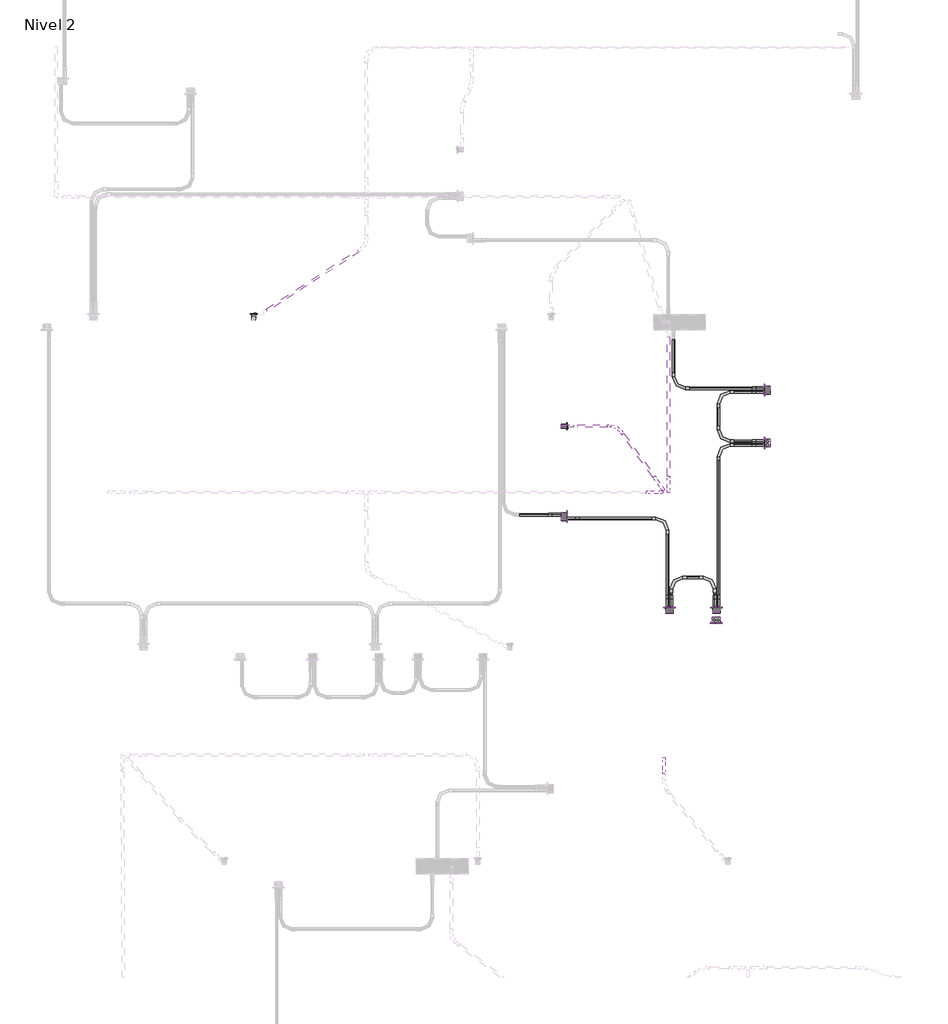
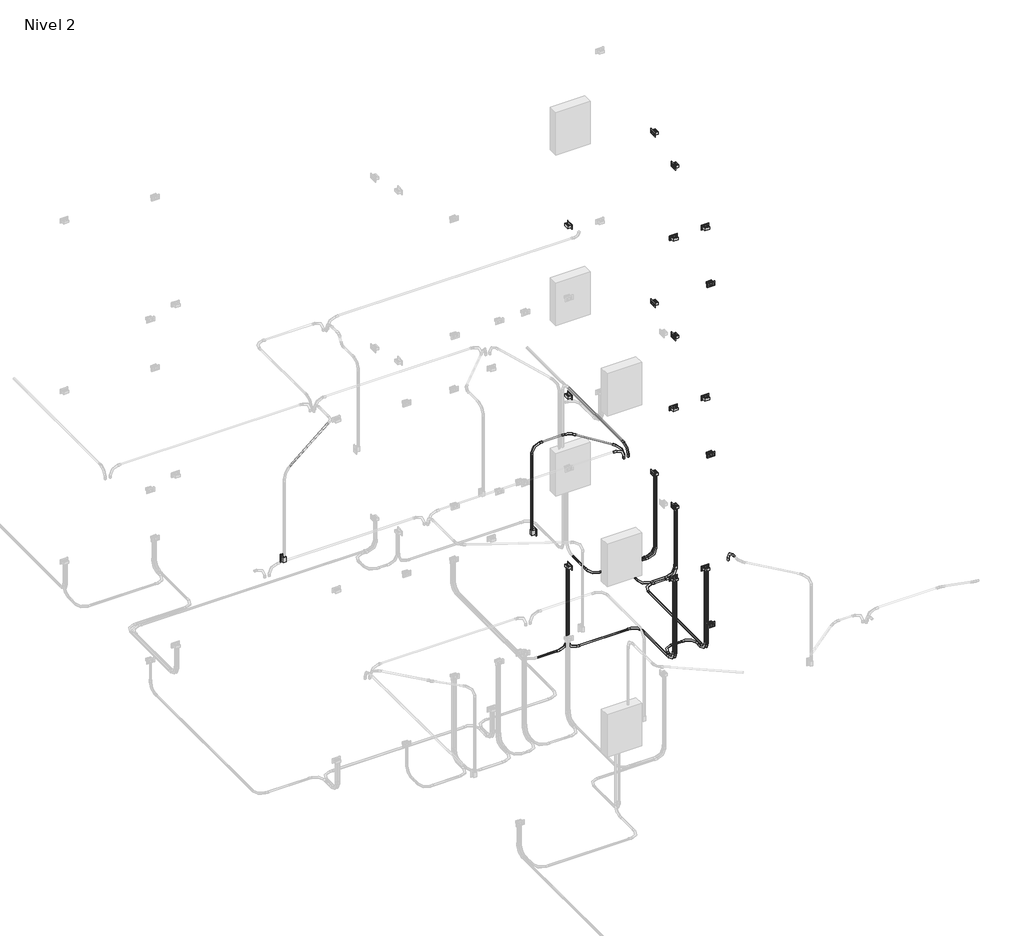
# One storey, part 7 of 10: 28 cable carrier segments, 23 cable carrier fittings, 18 proxies, 2 switching devices.
"""IFC4 building model written with IfcOpenShell, lengths in millimetres."""

from ifc_helpers import new_model, si_unit, point, frame, frame_2d, origin, place, context, project, spatial, circle_curve, trimmed, segment, composite_curve, outline, extrude, transform, mapped, element, save
from components import gfci_180f1b41, m_codo_de_tubo_extremo_liso_pvc_9da73e12, m_codo_de_tubo_extremo_liso_pvc_102f0f41, m_codo_de_tubo_extremo_liso_pvc_7e29693c, switching_device_22fed34b

model = new_model("IFC4")

# Units and contexts
model_context = context("Model", 3, world=origin())
ifc_project = project(units=[si_unit("LENGTHUNIT", "METRE", prefix="MILLI")], contexts=[model_context])

# Site, building, storey
site = spatial("IfcSite", under=ifc_project)
building = spatial("IfcBuilding", under=site)
storey = spatial("IfcBuildingStorey", under=building, Name="Nivel 2", Elevation=2800.0)

# Proxies
placement = place(None, origin())
gfci_shape = gfci_180f1b41(model_context)
element("IfcBuildingElementProxy", 1, Name="Tomacorriente doble 220V : GFCI", ObjectType="Tomacorriente doble 220V : GFCI", at=placement, inside=storey, context=model_context, shape_type="MappedRepresentation", body=[
    mapped(gfci_shape, transform((6315.0, 11621.3114271, 4000.0), x_axis=(0.0, 0.0, 1.0), y_axis=(0.0, 1.0, 0.0), z_axis=(-1.0, 0.0, 0.0))),
])
element("IfcBuildingElementProxy", 2, Name="Tomacorriente doble 220V : GFCI", ObjectType="Tomacorriente doble 220V : GFCI", at=placement, inside=storey, context=model_context, shape_type="MappedRepresentation", body=[
    mapped(gfci_shape, transform((6315.0, 11100.796667, 3800.0), x_axis=(0.0, 0.0, 1.0), y_axis=(0.0, 1.0, 0.0), z_axis=(-1.0, 0.0, 0.0))),
])
element("IfcBuildingElementProxy", 3, Name="Tomacorriente doble 220V : GFCI", ObjectType="Tomacorriente doble 220V : GFCI", at=placement, inside=storey, context=model_context, shape_type="MappedRepresentation", body=[
    mapped(gfci_shape, transform((5843.9365516, 9485.0, 4000.0), x_axis=(0.0, 0.0, 1.0), y_axis=(1.0, 0.0, 0.0), z_axis=(0.0, 1.0, 0.0))),
])
element("IfcBuildingElementProxy", 4, Name="Tomacorriente doble 220V : GFCI", ObjectType="Tomacorriente doble 220V : GFCI", at=placement, inside=storey, context=model_context, shape_type="MappedRepresentation", body=[
    mapped(gfci_shape, transform((5380.6033408, 9485.0, 4000.0), x_axis=(0.0, 0.0, 1.0), y_axis=(1.0, 0.0, 0.0), z_axis=(0.0, 1.0, 0.0))),
])
element("IfcBuildingElementProxy", 5, Name="Tomacorriente doble 220V : GFCI", ObjectType="Tomacorriente doble 220V : GFCI", at=placement, inside=storey, context=model_context, shape_type="MappedRepresentation", body=[
    mapped(gfci_shape, transform((4370.0005808, 10378.1627396, 4000.0), x_axis=(0.0, 0.0, 1.0), y_axis=(0.0, -1.0, 0.0), z_axis=(1.0, 0.0, 0.0))),
])
element("IfcBuildingElementProxy", 6, Name="Tomacorriente doble 220V : GFCI", ObjectType="Tomacorriente doble 220V : GFCI", at=placement, inside=storey, context=model_context, shape_type="MappedRepresentation", body=[
    mapped(gfci_shape, transform((5840.4348932, 9335.0, 3200.0), x_axis=(0.0, 0.0, 1.0), y_axis=(-1.0, 0.0, 0.0), z_axis=(0.0, -1.0, 0.0))),
])
element("IfcBuildingElementProxy", 7, Name="Tomacorriente doble 220V : GFCI", ObjectType="Tomacorriente doble 220V : GFCI", at=placement, inside=storey, context=model_context, shape_type="MappedRepresentation", body=[
    mapped(gfci_shape, transform((6315.0, 11621.3114271, 6650.0), x_axis=(0.0, 0.0, 1.0), y_axis=(0.0, 1.0, 0.0), z_axis=(-1.0, 0.0, 0.0))),
])
element("IfcBuildingElementProxy", 8, Name="Tomacorriente doble 220V : GFCI", ObjectType="Tomacorriente doble 220V : GFCI", at=placement, inside=storey, context=model_context, shape_type="MappedRepresentation", body=[
    mapped(gfci_shape, transform((6315.0, 11100.796667, 6450.0), x_axis=(0.0, 0.0, 1.0), y_axis=(0.0, 1.0, 0.0), z_axis=(-1.0, 0.0, 0.0))),
])
element("IfcBuildingElementProxy", 9, Name="Tomacorriente doble 220V : GFCI", ObjectType="Tomacorriente doble 220V : GFCI", at=placement, inside=storey, context=model_context, shape_type="MappedRepresentation", body=[
    mapped(gfci_shape, transform((5843.9365516, 9485.0, 6650.0), x_axis=(0.0, 0.0, 1.0), y_axis=(1.0, 0.0, 0.0), z_axis=(0.0, 1.0, 0.0))),
])
element("IfcBuildingElementProxy", 10, Name="Tomacorriente doble 220V : GFCI", ObjectType="Tomacorriente doble 220V : GFCI", at=placement, inside=storey, context=model_context, shape_type="MappedRepresentation", body=[
    mapped(gfci_shape, transform((5380.6033408, 9485.0, 6650.0), x_axis=(0.0, 0.0, 1.0), y_axis=(1.0, 0.0, 0.0), z_axis=(0.0, 1.0, 0.0))),
])
element("IfcBuildingElementProxy", 11, Name="Tomacorriente doble 220V : GFCI", ObjectType="Tomacorriente doble 220V : GFCI", at=placement, inside=storey, context=model_context, shape_type="MappedRepresentation", body=[
    mapped(gfci_shape, transform((4370.0005808, 10378.1627396, 6650.0), x_axis=(0.0, 0.0, 1.0), y_axis=(0.0, -1.0, 0.0), z_axis=(1.0, 0.0, 0.0))),
])
element("IfcBuildingElementProxy", 12, Name="Tomacorriente doble 220V : GFCI", ObjectType="Tomacorriente doble 220V : GFCI", at=placement, inside=storey, context=model_context, shape_type="MappedRepresentation", body=[
    mapped(gfci_shape, transform((5840.4348932, 9335.0, 5850.0), x_axis=(0.0, 0.0, 1.0), y_axis=(-1.0, 0.0, 0.0), z_axis=(0.0, -1.0, 0.0))),
])
element("IfcBuildingElementProxy", 13, Name="Tomacorriente doble 220V : GFCI", ObjectType="Tomacorriente doble 220V : GFCI", at=placement, inside=storey, context=model_context, shape_type="MappedRepresentation", body=[
    mapped(gfci_shape, transform((6315.0, 11621.3114271, 9300.0), x_axis=(0.0, 0.0, 1.0), y_axis=(0.0, 1.0, 0.0), z_axis=(-1.0, 0.0, 0.0))),
])
element("IfcBuildingElementProxy", 14, Name="Tomacorriente doble 220V : GFCI", ObjectType="Tomacorriente doble 220V : GFCI", at=placement, inside=storey, context=model_context, shape_type="MappedRepresentation", body=[
    mapped(gfci_shape, transform((6315.0, 11100.796667, 9100.0), x_axis=(0.0, 0.0, 1.0), y_axis=(0.0, 1.0, 0.0), z_axis=(-1.0, 0.0, 0.0))),
])
element("IfcBuildingElementProxy", 15, Name="Tomacorriente doble 220V : GFCI", ObjectType="Tomacorriente doble 220V : GFCI", at=placement, inside=storey, context=model_context, shape_type="MappedRepresentation", body=[
    mapped(gfci_shape, transform((5843.9365516, 9485.0, 9300.0), x_axis=(0.0, 0.0, 1.0), y_axis=(1.0, 0.0, 0.0), z_axis=(0.0, 1.0, 0.0))),
])
element("IfcBuildingElementProxy", 16, Name="Tomacorriente doble 220V : GFCI", ObjectType="Tomacorriente doble 220V : GFCI", at=placement, inside=storey, context=model_context, shape_type="MappedRepresentation", body=[
    mapped(gfci_shape, transform((5380.6033408, 9485.0, 9300.0), x_axis=(0.0, 0.0, 1.0), y_axis=(1.0, 0.0, 0.0), z_axis=(0.0, 1.0, 0.0))),
])
element("IfcBuildingElementProxy", 17, Name="Tomacorriente doble 220V : GFCI", ObjectType="Tomacorriente doble 220V : GFCI", at=placement, inside=storey, context=model_context, shape_type="MappedRepresentation", body=[
    mapped(gfci_shape, transform((4370.0005808, 10378.1627396, 9300.0), x_axis=(0.0, 0.0, 1.0), y_axis=(0.0, -1.0, 0.0), z_axis=(1.0, 0.0, 0.0))),
])
element("IfcBuildingElementProxy", 18, Name="Tomacorriente doble 220V : GFCI", ObjectType="Tomacorriente doble 220V : GFCI", at=placement, inside=storey, context=model_context, shape_type="MappedRepresentation", body=[
    mapped(gfci_shape, transform((5840.4348932, 9335.0, 8500.0), x_axis=(0.0, 0.0, 1.0), y_axis=(-1.0, 0.0, 0.0), z_axis=(0.0, -1.0, 0.0))),
])

# Cable carrier fittings
m_codo_de_tubo_extremo_liso_pvc_shape = m_codo_de_tubo_extremo_liso_pvc_9da73e12(model_context)
element("IfcCableCarrierFitting", 19, ObjectType="M_Codo de tubo - Extremo liso - PVC : CODO POTENCIA", at=placement, inside=storey, context=model_context, shape_type="MappedRepresentation", body=[
    mapped(m_codo_de_tubo_extremo_liso_pvc_shape, transform((6344.6371118, 11639.3432469, 2730.0), x_axis=(0.0, 0.0, -1.0), y_axis=(-1.0, 0.0, 0.0), z_axis=(0.0, 1.0, 0.0))),
])
element("IfcCableCarrierFitting", 20, ObjectType="M_Codo de tubo - Extremo liso - PVC : CODO POTENCIA", at=placement, inside=storey, context=model_context, shape_type="MappedRepresentation", body=[
    mapped(m_codo_de_tubo_extremo_liso_pvc_shape, transform((6344.6371118, 11603.2796073, 2730.0), x_axis=(0.0, 0.0, -1.0), y_axis=(-1.0, 0.0, 0.0), z_axis=(0.0, 1.0, 0.0))),
])
element("IfcCableCarrierFitting", 21, ObjectType="M_Codo de tubo - Extremo liso - PVC : CODO POTENCIA", at=placement, inside=storey, context=model_context, shape_type="MappedRepresentation", body=[
    mapped(m_codo_de_tubo_extremo_liso_pvc_shape, transform((6344.6371118, 11118.8284868, 2730.0), x_axis=(0.0, 0.0, -1.0), y_axis=(-1.0, 0.0, 0.0), z_axis=(0.0, 1.0, 0.0))),
])
element("IfcCableCarrierFitting", 22, ObjectType="M_Codo de tubo - Extremo liso - PVC : CODO POTENCIA", at=placement, inside=storey, context=model_context, shape_type="MappedRepresentation", body=[
    mapped(m_codo_de_tubo_extremo_liso_pvc_shape, transform((6344.6371118, 11082.7648472, 2730.0), x_axis=(0.0, 0.0, -1.0), y_axis=(-1.0, 0.0, 0.0), z_axis=(0.0, 1.0, 0.0))),
])
element("IfcCableCarrierFitting", 23, ObjectType="M_Codo de tubo - Extremo liso - PVC : CODO POTENCIA", at=placement, inside=storey, context=model_context, shape_type="MappedRepresentation", body=[
    mapped(m_codo_de_tubo_extremo_liso_pvc_shape, transform((5861.9683714, 11082.7648472, 2730.0), x_axis=(-1.0, 0.0, 0.0), y_axis=(0.0, -1.0, 0.0), z_axis=(0.0, 0.0, 1.0))),
])
element("IfcCableCarrierFitting", 24, ObjectType="M_Codo de tubo - Extremo liso - PVC : CODO POTENCIA", at=placement, inside=storey, context=model_context, shape_type="MappedRepresentation", body=[
    mapped(m_codo_de_tubo_extremo_liso_pvc_shape, transform((5861.9683714, 9455.3628882, 2730.0), x_axis=(0.0, 0.0, -1.0), y_axis=(0.0, 1.0, 0.0), z_axis=(1.0, 0.0, 0.0))),
])
element("IfcCableCarrierFitting", 25, ObjectType="M_Codo de tubo - Extremo liso - PVC : CODO POTENCIA", at=placement, inside=storey, context=model_context, shape_type="MappedRepresentation", body=[
    mapped(m_codo_de_tubo_extremo_liso_pvc_shape, transform((5861.9683714, 11603.2796073, 2730.0), x_axis=(-1.0, 0.0, 0.0), y_axis=(0.0, -1.0, 0.0), z_axis=(0.0, 0.0, 1.0))),
])
element("IfcCableCarrierFitting", 26, ObjectType="M_Codo de tubo - Extremo liso - PVC : CODO POTENCIA", at=placement, inside=storey, context=model_context, shape_type="MappedRepresentation", body=[
    mapped(m_codo_de_tubo_extremo_liso_pvc_shape, transform((5861.9683714, 11118.8284868, 2730.0), x_axis=(0.0, -1.0, 0.0), y_axis=(1.0, 0.0, 0.0), z_axis=(0.0, 0.0, 1.0))),
])
element("IfcCableCarrierFitting", 27, ObjectType="M_Codo de tubo - Extremo liso - PVC : CODO POTENCIA", at=placement, inside=storey, context=model_context, shape_type="MappedRepresentation", body=[
    mapped(m_codo_de_tubo_extremo_liso_pvc_shape, transform((5825.9047317, 9455.3628882, 2730.0), x_axis=(0.0, 0.0, -1.0), y_axis=(0.0, 1.0, 0.0), z_axis=(1.0, 0.0, 0.0))),
])
element("IfcCableCarrierFitting", 28, ObjectType="M_Codo de tubo - Extremo liso - PVC : CODO POTENCIA", at=placement, inside=storey, context=model_context, shape_type="MappedRepresentation", body=[
    mapped(m_codo_de_tubo_extremo_liso_pvc_shape, transform((5398.6351606, 9455.3628882, 2730.0), x_axis=(0.0, 0.0, -1.0), y_axis=(0.0, 1.0, 0.0), z_axis=(1.0, 0.0, 0.0))),
])
element("IfcCableCarrierFitting", 29, ObjectType="M_Codo de tubo - Extremo liso - PVC : CODO POTENCIA", at=placement, inside=storey, context=model_context, shape_type="MappedRepresentation", body=[
    mapped(m_codo_de_tubo_extremo_liso_pvc_shape, transform((4340.363469, 10360.1309198, 2730.0), x_axis=(0.0, 0.0, -1.0), y_axis=(1.0, 0.0, 0.0), z_axis=(0.0, -1.0, 0.0))),
])
element("IfcCableCarrierFitting", 30, ObjectType="M_Codo de tubo - Extremo liso - PVC : CODO POTENCIA", at=placement, inside=storey, context=model_context, shape_type="MappedRepresentation", body=[
    mapped(m_codo_de_tubo_extremo_liso_pvc_shape, transform((5825.9047317, 9781.7743992, 2730.0), x_axis=(0.0, 1.0, 0.0), y_axis=(-1.0, 0.0, 0.0), z_axis=(0.0, 0.0, 1.0))),
])
element("IfcCableCarrierFitting", 31, ObjectType="M_Codo de tubo - Extremo liso - PVC : CODO POTENCIA", at=placement, inside=storey, context=model_context, shape_type="MappedRepresentation", body=[
    mapped(m_codo_de_tubo_extremo_liso_pvc_shape, transform((5398.6351606, 9781.7743992, 2730.0), x_axis=(-1.0, 0.0, 0.0), y_axis=(0.0, -1.0, 0.0), z_axis=(0.0, 0.0, 1.0))),
])
element("IfcCableCarrierFitting", 32, ObjectType="M_Codo de tubo - Extremo liso - PVC : CODO POTENCIA", at=placement, inside=storey, context=model_context, shape_type="MappedRepresentation", body=[
    mapped(m_codo_de_tubo_extremo_liso_pvc_shape, transform((5362.571521, 10360.1309198, 2730.0), x_axis=(0.0, 1.0, 0.0), y_axis=(-1.0, 0.0, 0.0), z_axis=(0.0, 0.0, 1.0))),
])
element("IfcCableCarrierFitting", 33, ObjectType="M_Codo de tubo - Extremo liso - PVC : CODO POTENCIA", at=placement, inside=storey, context=model_context, shape_type="MappedRepresentation", body=[
    mapped(m_codo_de_tubo_extremo_liso_pvc_shape, transform((5362.571521, 9455.3628882, 2730.0), x_axis=(0.0, 0.0, -1.0), y_axis=(0.0, 1.0, 0.0), z_axis=(1.0, 0.0, 0.0))),
])
element("IfcCableCarrierFitting", 34, ObjectType="M_Codo de tubo - Extremo liso - PVC : CODO POTENCIA", at=placement, inside=storey, context=model_context, shape_type="MappedRepresentation", body=[
    mapped(m_codo_de_tubo_extremo_liso_pvc_shape, transform((4340.363469, 10396.1945594, 2730.0), x_axis=(0.0, 0.0, -1.0), y_axis=(-1.0, 0.0, 0.0), z_axis=(0.0, 1.0, 0.0))),
])
element("IfcCableCarrierFitting", 35, ObjectType="M_Codo de tubo - Extremo liso - PVC : CODO POTENCIA", at=placement, inside=storey, context=model_context, shape_type="MappedRepresentation", body=[
    mapped(m_codo_de_tubo_extremo_liso_pvc_shape, transform((5421.447338, 11639.3432469, 2730.0), x_axis=(0.0, -1.0, 0.0), y_axis=(1.0, 0.0, 0.0), z_axis=(0.0, 0.0, 1.0))),
])
element("IfcCableCarrierFitting", 36, ObjectType="M_Codo de tubo - Extremo liso - PVC : CODO ILUMINACION", at=placement, inside=storey, context=model_context, shape_type="MappedRepresentation", body=[
    mapped(m_codo_de_tubo_extremo_liso_pvc_shape, transform((5372.6243482, 10623.5653349, 5350.0), x_axis=(0.0, -1.0, 0.0), y_axis=(0.0, 0.0, -1.0), z_axis=(1.0, 0.0, 0.0))),
])
element("IfcCableCarrierFitting", 37, ObjectType="M_Codo de tubo - Extremo liso - PVC : CODO ILUMINACION", at=placement, inside=storey, context=model_context, shape_type="MappedRepresentation", body=[
    mapped(m_codo_de_tubo_extremo_liso_pvc_shape, transform((4326.8617051, 11267.6086695, 5350.0), x_axis=(0.0, 0.0, 1.0), y_axis=(1.0, 0.0, 0.0), z_axis=(0.0, 1.0, 0.0))),
])
element("IfcCableCarrierFitting", 38, ObjectType="M_Codo de tubo - Extremo liso - PVC : CODO ILUMINACION", at=placement, inside=storey, context=model_context, shape_type="MappedRepresentation", body=[
    mapped(m_codo_de_tubo_extremo_liso_pvc_shape, transform((5326.8335186, 8002.6414157, 5350.0), x_axis=(0.0, 1.0, 0.0), y_axis=(0.0, 0.0, -1.0), z_axis=(-1.0, 0.0, 0.0))),
])
m_codo_de_tubo_extremo_liso_pvc_2_shape = m_codo_de_tubo_extremo_liso_pvc_102f0f41(model_context)
element("IfcCableCarrierFitting", 39, ObjectType="M_Codo de tubo - Extremo liso - PVC : CODO ILUMINACION", at=placement, inside=storey, context=model_context, shape_type="MappedRepresentation", body=[
    mapped(m_codo_de_tubo_extremo_liso_pvc_2_shape, transform((5305.5362229, 10618.2110616, 5350.0), x_axis=(1.0, 0.0, 0.0), y_axis=(0.0, 0.0, 1.0), z_axis=(0.0, -1.0, 0.0))),
])
element("IfcCableCarrierFitting", 40, ObjectType="M_Codo de tubo - Extremo liso - PVC : CODO ILUMINACION", at=placement, inside=storey, context=model_context, shape_type="MappedRepresentation", body=[
    mapped(m_codo_de_tubo_extremo_liso_pvc_2_shape, transform((5317.7730141, 10646.6392543, 5350.0), x_axis=(0.587785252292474, -0.8090169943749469, 0.0), y_axis=(0.0, 0.0, 1.0000000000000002), z_axis=(-0.8090169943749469, -0.587785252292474, 0.0))),
])
m_codo_de_tubo_extremo_liso_pvc_3_shape = m_codo_de_tubo_extremo_liso_pvc_7e29693c(model_context)
element("IfcCableCarrierFitting", 41, ObjectType="M_Codo de tubo - Extremo liso - PVC : CODO ILUMINACION", at=placement, inside=storey, context=model_context, shape_type="MappedRepresentation", body=[
    mapped(m_codo_de_tubo_extremo_liso_pvc_3_shape, transform((4866.6123254, 11267.6086695, 5350.0), x_axis=(-0.5877852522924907, 0.8090169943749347, 0.0), y_axis=(-0.8090169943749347, -0.5877852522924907, 0.0), z_axis=(0.0, 0.0, 1.0))),
])

# Cable carrier segments
element("IfcCableCarrierSegment", 42, ObjectType="PVC-SEL, POTENCIA", at=placement, inside=storey, context=model_context, shape_type="SweptSolid", body=[
    extrude(outline(composite_curve([segment(trimmed(circle_curve(frame_2d((11639.3432469, 2730.0)), 11.71), [point((11651.0532469, 2730.0))], [point((11639.3432469, 2718.29))], False, "CARTESIAN"), True, "CONTINUOUS"), segment(trimmed(circle_curve(frame_2d((11639.3432469, 2730.0)), 11.71), [point((11639.3432469, 2718.29))], [point((11627.6332469, 2730.0))], False, "CARTESIAN"), True, "CONTINUOUS"), segment(trimmed(circle_curve(frame_2d((11639.3432469, 2730.0)), 11.71), [point((11627.6332469, 2730.0))], [point((11639.3432469, 2741.71))], False, "CARTESIAN"), True, "CONTINUOUS"), segment(trimmed(circle_curve(frame_2d((11639.3432469, 2730.0)), 11.71), [point((11639.3432469, 2741.71))], [point((11651.0532469, 2730.0))], False, "CARTESIAN"), True, "CONTINUOUS")], self_intersect=False)), frame((5573.847338, 0.0, 0.0), z_axis=(1.0, 0.0, 0.0), x_axis=(0.0, 1.0, 0.0)), (0.0, 0.0, 1.0), 618.3897738),
])
element("IfcCableCarrierSegment", 43, ObjectType="PVC-SEL, POTENCIA", at=placement, inside=storey, context=model_context, shape_type="SweptSolid", body=[
    extrude(outline(composite_curve([segment(trimmed(circle_curve(frame_2d((6344.6371118, 11639.3432469)), 11.71), [point((6356.3471118, 11639.3432469))], [point((6344.6371118, 11627.6332469))], False, "CARTESIAN"), True, "CONTINUOUS"), segment(trimmed(circle_curve(frame_2d((6344.6371118, 11639.3432469)), 11.71), [point((6344.6371118, 11627.6332469))], [point((6332.9271118, 11639.3432469))], False, "CARTESIAN"), True, "CONTINUOUS"), segment(trimmed(circle_curve(frame_2d((6344.6371118, 11639.3432469)), 11.71), [point((6332.9271118, 11639.3432469))], [point((6344.6371118, 11651.0532469))], False, "CARTESIAN"), True, "CONTINUOUS"), segment(trimmed(circle_curve(frame_2d((6344.6371118, 11639.3432469)), 11.71), [point((6344.6371118, 11651.0532469))], [point((6356.3471118, 11639.3432469))], False, "CARTESIAN"), True, "CONTINUOUS")], self_intersect=False)), frame((0.0, 0.0, 2882.4), z_axis=(0.0, 0.0, 1.0), x_axis=(1.0, 0.0, 0.0)), (0.0, 0.0, 1.0), 1097.3020537),
])
element("IfcCableCarrierSegment", 44, ObjectType="PVC-SEL, POTENCIA", at=placement, inside=storey, context=model_context, shape_type="SweptSolid", body=[
    extrude(outline(composite_curve([segment(trimmed(circle_curve(frame_2d((11603.2796073, 2730.0)), 11.71), [point((11614.9896073, 2730.0))], [point((11603.2796073, 2718.29))], False, "CARTESIAN"), True, "CONTINUOUS"), segment(trimmed(circle_curve(frame_2d((11603.2796073, 2730.0)), 11.71), [point((11603.2796073, 2718.29))], [point((11591.5696073, 2730.0))], False, "CARTESIAN"), True, "CONTINUOUS"), segment(trimmed(circle_curve(frame_2d((11603.2796073, 2730.0)), 11.71), [point((11591.5696073, 2730.0))], [point((11603.2796073, 2741.71))], False, "CARTESIAN"), True, "CONTINUOUS"), segment(trimmed(circle_curve(frame_2d((11603.2796073, 2730.0)), 11.71), [point((11603.2796073, 2741.71))], [point((11614.9896073, 2730.0))], False, "CARTESIAN"), True, "CONTINUOUS")], self_intersect=False)), frame((6014.3683714, 0.0, 0.0), z_axis=(1.0, 0.0, 0.0), x_axis=(0.0, 1.0, 0.0)), (0.0, 0.0, 1.0), 177.8687404),
])
element("IfcCableCarrierSegment", 45, ObjectType="PVC-SEL, POTENCIA", at=placement, inside=storey, context=model_context, shape_type="SweptSolid", body=[
    extrude(outline(composite_curve([segment(trimmed(circle_curve(frame_2d((6344.6371118, 11603.2796073)), 11.71), [point((6356.3471118, 11603.2796073))], [point((6344.6371118, 11591.5696073))], False, "CARTESIAN"), True, "CONTINUOUS"), segment(trimmed(circle_curve(frame_2d((6344.6371118, 11603.2796073)), 11.71), [point((6344.6371118, 11591.5696073))], [point((6332.9271118, 11603.2796073))], False, "CARTESIAN"), True, "CONTINUOUS"), segment(trimmed(circle_curve(frame_2d((6344.6371118, 11603.2796073)), 11.71), [point((6332.9271118, 11603.2796073))], [point((6344.6371118, 11614.9896073))], False, "CARTESIAN"), True, "CONTINUOUS"), segment(trimmed(circle_curve(frame_2d((6344.6371118, 11603.2796073)), 11.71), [point((6344.6371118, 11614.9896073))], [point((6356.3471118, 11603.2796073))], False, "CARTESIAN"), True, "CONTINUOUS")], self_intersect=False)), frame((0.0, 0.0, 2882.4), z_axis=(0.0, 0.0, 1.0), x_axis=(1.0, 0.0, 0.0)), (0.0, 0.0, 1.0), 1097.3020537),
])
element("IfcCableCarrierSegment", 46, ObjectType="PVC-SEL, POTENCIA", at=placement, inside=storey, context=model_context, shape_type="SweptSolid", body=[
    extrude(outline(composite_curve([segment(trimmed(circle_curve(frame_2d((11118.8284868, 2730.0)), 11.71), [point((11130.5384868, 2730.0))], [point((11118.8284868, 2718.29))], False, "CARTESIAN"), True, "CONTINUOUS"), segment(trimmed(circle_curve(frame_2d((11118.8284868, 2730.0)), 11.71), [point((11118.8284868, 2718.29))], [point((11107.1184868, 2730.0))], False, "CARTESIAN"), True, "CONTINUOUS"), segment(trimmed(circle_curve(frame_2d((11118.8284868, 2730.0)), 11.71), [point((11107.1184868, 2730.0))], [point((11118.8284868, 2741.71))], False, "CARTESIAN"), True, "CONTINUOUS"), segment(trimmed(circle_curve(frame_2d((11118.8284868, 2730.0)), 11.71), [point((11118.8284868, 2741.71))], [point((11130.5384868, 2730.0))], False, "CARTESIAN"), True, "CONTINUOUS")], self_intersect=False)), frame((6014.3683714, 0.0, 0.0), z_axis=(1.0, 0.0, 0.0), x_axis=(0.0, 1.0, 0.0)), (0.0, 0.0, 1.0), 177.8687404),
])
element("IfcCableCarrierSegment", 47, ObjectType="PVC-SEL, POTENCIA", at=placement, inside=storey, context=model_context, shape_type="SweptSolid", body=[
    extrude(outline(composite_curve([segment(trimmed(circle_curve(frame_2d((6344.6371118, 11118.8284868)), 11.71), [point((6356.3471118, 11118.8284868))], [point((6344.6371118, 11107.1184868))], False, "CARTESIAN"), True, "CONTINUOUS"), segment(trimmed(circle_curve(frame_2d((6344.6371118, 11118.8284868)), 11.71), [point((6344.6371118, 11107.1184868))], [point((6332.9271118, 11118.8284868))], False, "CARTESIAN"), True, "CONTINUOUS"), segment(trimmed(circle_curve(frame_2d((6344.6371118, 11118.8284868)), 11.71), [point((6332.9271118, 11118.8284868))], [point((6344.6371118, 11130.5384868))], False, "CARTESIAN"), True, "CONTINUOUS"), segment(trimmed(circle_curve(frame_2d((6344.6371118, 11118.8284868)), 11.71), [point((6344.6371118, 11130.5384868))], [point((6356.3471118, 11118.8284868))], False, "CARTESIAN"), True, "CONTINUOUS")], self_intersect=False)), frame((0.0, 0.0, 2882.4), z_axis=(0.0, 0.0, 1.0), x_axis=(1.0, 0.0, 0.0)), (0.0, 0.0, 1.0), 897.3020537),
])
element("IfcCableCarrierSegment", 48, ObjectType="PVC-SEL, POTENCIA", at=placement, inside=storey, context=model_context, shape_type="SweptSolid", body=[
    extrude(outline(composite_curve([segment(trimmed(circle_curve(frame_2d((11082.7648472, 2730.0)), 11.71), [point((11094.4748472, 2730.0))], [point((11082.7648472, 2718.29))], False, "CARTESIAN"), True, "CONTINUOUS"), segment(trimmed(circle_curve(frame_2d((11082.7648472, 2730.0)), 11.71), [point((11082.7648472, 2718.29))], [point((11071.0548472, 2730.0))], False, "CARTESIAN"), True, "CONTINUOUS"), segment(trimmed(circle_curve(frame_2d((11082.7648472, 2730.0)), 11.71), [point((11071.0548472, 2730.0))], [point((11082.7648472, 2741.71))], False, "CARTESIAN"), True, "CONTINUOUS"), segment(trimmed(circle_curve(frame_2d((11082.7648472, 2730.0)), 11.71), [point((11082.7648472, 2741.71))], [point((11094.4748472, 2730.0))], False, "CARTESIAN"), True, "CONTINUOUS")], self_intersect=False)), frame((6014.3683714, 0.0, 0.0), z_axis=(1.0, 0.0, 0.0), x_axis=(0.0, 1.0, 0.0)), (0.0, 0.0, 1.0), 177.8687404),
])
element("IfcCableCarrierSegment", 49, ObjectType="PVC-SEL, POTENCIA", at=placement, inside=storey, context=model_context, shape_type="SweptSolid", body=[
    extrude(outline(composite_curve([segment(trimmed(circle_curve(frame_2d((6344.6371118, 11082.7648472)), 11.71), [point((6356.3471118, 11082.7648472))], [point((6344.6371118, 11071.0548472))], False, "CARTESIAN"), True, "CONTINUOUS"), segment(trimmed(circle_curve(frame_2d((6344.6371118, 11082.7648472)), 11.71), [point((6344.6371118, 11071.0548472))], [point((6332.9271118, 11082.7648472))], False, "CARTESIAN"), True, "CONTINUOUS"), segment(trimmed(circle_curve(frame_2d((6344.6371118, 11082.7648472)), 11.71), [point((6332.9271118, 11082.7648472))], [point((6344.6371118, 11094.4748472))], False, "CARTESIAN"), True, "CONTINUOUS"), segment(trimmed(circle_curve(frame_2d((6344.6371118, 11082.7648472)), 11.71), [point((6344.6371118, 11094.4748472))], [point((6356.3471118, 11082.7648472))], False, "CARTESIAN"), True, "CONTINUOUS")], self_intersect=False)), frame((0.0, 0.0, 2882.4), z_axis=(0.0, 0.0, 1.0), x_axis=(1.0, 0.0, 0.0)), (0.0, 0.0, 1.0), 897.3020537),
])
element("IfcCableCarrierSegment", 50, ObjectType="PVC-SEL, POTENCIA", at=placement, inside=storey, context=model_context, shape_type="SweptSolid", body=[
    extrude(outline(composite_curve([segment(trimmed(circle_curve(frame_2d((2730.0, 5861.9683714)), 11.71), [point((2730.0, 5850.2583714))], [point((2718.29, 5861.9683714))], False, "CARTESIAN"), True, "CONTINUOUS"), segment(trimmed(circle_curve(frame_2d((2730.0, 5861.9683714)), 11.71), [point((2718.29, 5861.9683714))], [point((2730.0, 5873.6783714))], False, "CARTESIAN"), True, "CONTINUOUS"), segment(trimmed(circle_curve(frame_2d((2730.0, 5861.9683714)), 11.71), [point((2730.0, 5873.6783714))], [point((2741.71, 5861.9683714))], False, "CARTESIAN"), True, "CONTINUOUS"), segment(trimmed(circle_curve(frame_2d((2730.0, 5861.9683714)), 11.71), [point((2741.71, 5861.9683714))], [point((2730.0, 5850.2583714))], False, "CARTESIAN"), True, "CONTINUOUS")], self_intersect=False)), frame((0.0, 9607.7628882, 0.0), z_axis=(0.0, 1.0, 0.0), x_axis=(0.0, 0.0, 1.0)), (0.0, 0.0, 1.0), 1322.6019589),
])
element("IfcCableCarrierSegment", 51, ObjectType="PVC-SEL, POTENCIA", at=placement, inside=storey, context=model_context, shape_type="SweptSolid", body=[
    extrude(outline(composite_curve([segment(trimmed(circle_curve(frame_2d((5861.9683714, 9455.3628882)), 11.71), [point((5873.6783714, 9455.3628882))], [point((5861.9683714, 9443.6528882))], False, "CARTESIAN"), True, "CONTINUOUS"), segment(trimmed(circle_curve(frame_2d((5861.9683714, 9455.3628882)), 11.71), [point((5861.9683714, 9443.6528882))], [point((5850.2583714, 9455.3628882))], False, "CARTESIAN"), True, "CONTINUOUS"), segment(trimmed(circle_curve(frame_2d((5861.9683714, 9455.3628882)), 11.71), [point((5850.2583714, 9455.3628882))], [point((5861.9683714, 9467.0728882))], False, "CARTESIAN"), True, "CONTINUOUS"), segment(trimmed(circle_curve(frame_2d((5861.9683714, 9455.3628882)), 11.71), [point((5861.9683714, 9467.0728882))], [point((5873.6783714, 9455.3628882))], False, "CARTESIAN"), True, "CONTINUOUS")], self_intersect=False)), frame((0.0, 0.0, 2882.4), z_axis=(0.0, 0.0, 1.0), x_axis=(1.0, 0.0, 0.0)), (0.0, 0.0, 1.0), 1097.3020537),
])
element("IfcCableCarrierSegment", 52, ObjectType="PVC-SEL, POTENCIA", at=placement, inside=storey, context=model_context, shape_type="SweptSolid", body=[
    extrude(outline(composite_curve([segment(trimmed(circle_curve(frame_2d((2730.0, 5861.9683714)), 11.71), [point((2730.0, 5850.2583714))], [point((2718.29, 5861.9683714))], False, "CARTESIAN"), True, "CONTINUOUS"), segment(trimmed(circle_curve(frame_2d((2730.0, 5861.9683714)), 11.71), [point((2718.29, 5861.9683714))], [point((2730.0, 5873.6783714))], False, "CARTESIAN"), True, "CONTINUOUS"), segment(trimmed(circle_curve(frame_2d((2730.0, 5861.9683714)), 11.71), [point((2730.0, 5873.6783714))], [point((2741.71, 5861.9683714))], False, "CARTESIAN"), True, "CONTINUOUS"), segment(trimmed(circle_curve(frame_2d((2730.0, 5861.9683714)), 11.71), [point((2741.71, 5861.9683714))], [point((2730.0, 5850.2583714))], False, "CARTESIAN"), True, "CONTINUOUS")], self_intersect=False)), frame((0.0, 11271.2284868, 0.0), z_axis=(0.0, 1.0, 0.0), x_axis=(0.0, 0.0, 1.0)), (0.0, 0.0, 1.0), 179.6511205),
])
element("IfcCableCarrierSegment", 53, ObjectType="PVC-SEL, POTENCIA", at=placement, inside=storey, context=model_context, shape_type="SweptSolid", body=[
    extrude(outline(composite_curve([segment(trimmed(circle_curve(frame_2d((2730.0, 5825.9047317)), 11.71), [point((2730.0, 5837.6147317))], [point((2741.71, 5825.9047317))], False, "CARTESIAN"), True, "CONTINUOUS"), segment(trimmed(circle_curve(frame_2d((2730.0, 5825.9047317)), 11.71), [point((2741.71, 5825.9047317))], [point((2730.0, 5814.1947317))], False, "CARTESIAN"), True, "CONTINUOUS"), segment(trimmed(circle_curve(frame_2d((2730.0, 5825.9047317)), 11.71), [point((2730.0, 5814.1947317))], [point((2718.29, 5825.9047317))], False, "CARTESIAN"), True, "CONTINUOUS"), segment(trimmed(circle_curve(frame_2d((2730.0, 5825.9047317)), 11.71), [point((2718.29, 5825.9047317))], [point((2730.0, 5837.6147317))], False, "CARTESIAN"), True, "CONTINUOUS")], self_intersect=False)), frame((0.0, 9607.7628882, 0.0), z_axis=(0.0, 1.0, 0.0), x_axis=(0.0, 0.0, 1.0)), (0.0, 0.0, 1.0), 21.611511),
])
element("IfcCableCarrierSegment", 54, ObjectType="PVC-SEL, POTENCIA", at=placement, inside=storey, context=model_context, shape_type="SweptSolid", body=[
    extrude(outline(composite_curve([segment(trimmed(circle_curve(frame_2d((5825.9047317, 9455.3628882)), 11.71), [point((5837.6147317, 9455.3628882))], [point((5825.9047317, 9443.6528882))], False, "CARTESIAN"), True, "CONTINUOUS"), segment(trimmed(circle_curve(frame_2d((5825.9047317, 9455.3628882)), 11.71), [point((5825.9047317, 9443.6528882))], [point((5814.1947317, 9455.3628882))], False, "CARTESIAN"), True, "CONTINUOUS"), segment(trimmed(circle_curve(frame_2d((5825.9047317, 9455.3628882)), 11.71), [point((5814.1947317, 9455.3628882))], [point((5825.9047317, 9467.0728882))], False, "CARTESIAN"), True, "CONTINUOUS"), segment(trimmed(circle_curve(frame_2d((5825.9047317, 9455.3628882)), 11.71), [point((5825.9047317, 9467.0728882))], [point((5837.6147317, 9455.3628882))], False, "CARTESIAN"), True, "CONTINUOUS")], self_intersect=False)), frame((0.0, 0.0, 2882.4), z_axis=(0.0, 0.0, 1.0), x_axis=(1.0, 0.0, 0.0)), (0.0, 0.0, 1.0), 1097.3020537),
])
element("IfcCableCarrierSegment", 55, ObjectType="PVC-SEL, POTENCIA", at=placement, inside=storey, context=model_context, shape_type="SweptSolid", body=[
    extrude(outline(composite_curve([segment(trimmed(circle_curve(frame_2d((2730.0, 5398.6351606)), 11.71), [point((2730.0, 5410.3451606))], [point((2741.71, 5398.6351606))], False, "CARTESIAN"), True, "CONTINUOUS"), segment(trimmed(circle_curve(frame_2d((2730.0, 5398.6351606)), 11.71), [point((2741.71, 5398.6351606))], [point((2730.0, 5386.9251606))], False, "CARTESIAN"), True, "CONTINUOUS"), segment(trimmed(circle_curve(frame_2d((2730.0, 5398.6351606)), 11.71), [point((2730.0, 5386.9251606))], [point((2718.29, 5398.6351606))], False, "CARTESIAN"), True, "CONTINUOUS"), segment(trimmed(circle_curve(frame_2d((2730.0, 5398.6351606)), 11.71), [point((2718.29, 5398.6351606))], [point((2730.0, 5410.3451606))], False, "CARTESIAN"), True, "CONTINUOUS")], self_intersect=False)), frame((0.0, 9607.7628882, 0.0), z_axis=(0.0, 1.0, 0.0), x_axis=(0.0, 0.0, 1.0)), (0.0, 0.0, 1.0), 21.611511),
])
element("IfcCableCarrierSegment", 56, ObjectType="PVC-SEL, POTENCIA", at=placement, inside=storey, context=model_context, shape_type="SweptSolid", body=[
    extrude(outline(composite_curve([segment(trimmed(circle_curve(frame_2d((5398.6351606, 9455.3628882)), 11.71), [point((5410.3451606, 9455.3628882))], [point((5398.6351606, 9443.6528882))], False, "CARTESIAN"), True, "CONTINUOUS"), segment(trimmed(circle_curve(frame_2d((5398.6351606, 9455.3628882)), 11.71), [point((5398.6351606, 9443.6528882))], [point((5386.9251606, 9455.3628882))], False, "CARTESIAN"), True, "CONTINUOUS"), segment(trimmed(circle_curve(frame_2d((5398.6351606, 9455.3628882)), 11.71), [point((5386.9251606, 9455.3628882))], [point((5398.6351606, 9467.0728882))], False, "CARTESIAN"), True, "CONTINUOUS"), segment(trimmed(circle_curve(frame_2d((5398.6351606, 9455.3628882)), 11.71), [point((5398.6351606, 9467.0728882))], [point((5410.3451606, 9455.3628882))], False, "CARTESIAN"), True, "CONTINUOUS")], self_intersect=False)), frame((0.0, 0.0, 2882.4), z_axis=(0.0, 0.0, 1.0), x_axis=(1.0, 0.0, 0.0)), (0.0, 0.0, 1.0), 1097.3020537),
])
element("IfcCableCarrierSegment", 57, ObjectType="PVC-SEL, POTENCIA", at=placement, inside=storey, context=model_context, shape_type="SweptSolid", body=[
    extrude(outline(composite_curve([segment(trimmed(circle_curve(frame_2d((2730.0, 5362.571521)), 11.71), [point((2730.0, 5350.861521))], [point((2718.29, 5362.571521))], False, "CARTESIAN"), True, "CONTINUOUS"), segment(trimmed(circle_curve(frame_2d((2730.0, 5362.571521)), 11.71), [point((2718.29, 5362.571521))], [point((2730.0, 5374.281521))], False, "CARTESIAN"), True, "CONTINUOUS"), segment(trimmed(circle_curve(frame_2d((2730.0, 5362.571521)), 11.71), [point((2730.0, 5374.281521))], [point((2741.71, 5362.571521))], False, "CARTESIAN"), True, "CONTINUOUS"), segment(trimmed(circle_curve(frame_2d((2730.0, 5362.571521)), 11.71), [point((2741.71, 5362.571521))], [point((2730.0, 5350.861521))], False, "CARTESIAN"), True, "CONTINUOUS")], self_intersect=False)), frame((0.0, 9607.7628882, 0.0), z_axis=(0.0, 1.0, 0.0), x_axis=(0.0, 0.0, 1.0)), (0.0, 0.0, 1.0), 599.9680316),
])
element("IfcCableCarrierSegment", 58, ObjectType="PVC-SEL, POTENCIA", at=placement, inside=storey, context=model_context, shape_type="SweptSolid", body=[
    extrude(outline(composite_curve([segment(trimmed(circle_curve(frame_2d((5362.571521, 9455.3628882)), 11.71), [point((5374.281521, 9455.3628882))], [point((5362.571521, 9443.6528882))], False, "CARTESIAN"), True, "CONTINUOUS"), segment(trimmed(circle_curve(frame_2d((5362.571521, 9455.3628882)), 11.71), [point((5362.571521, 9443.6528882))], [point((5350.861521, 9455.3628882))], False, "CARTESIAN"), True, "CONTINUOUS"), segment(trimmed(circle_curve(frame_2d((5362.571521, 9455.3628882)), 11.71), [point((5350.861521, 9455.3628882))], [point((5362.571521, 9467.0728882))], False, "CARTESIAN"), True, "CONTINUOUS"), segment(trimmed(circle_curve(frame_2d((5362.571521, 9455.3628882)), 11.71), [point((5362.571521, 9467.0728882))], [point((5374.281521, 9455.3628882))], False, "CARTESIAN"), True, "CONTINUOUS")], self_intersect=False)), frame((0.0, 0.0, 2882.4), z_axis=(0.0, 0.0, 1.0), x_axis=(1.0, 0.0, 0.0)), (0.0, 0.0, 1.0), 1097.3020537),
])
element("IfcCableCarrierSegment", 59, ObjectType="PVC-SEL, POTENCIA", at=placement, inside=storey, context=model_context, shape_type="SweptSolid", body=[
    extrude(outline(composite_curve([segment(trimmed(circle_curve(frame_2d((10360.1309198, 2730.0)), 11.71), [point((10348.4209198, 2730.0))], [point((10360.1309198, 2741.71))], False, "CARTESIAN"), True, "CONTINUOUS"), segment(trimmed(circle_curve(frame_2d((10360.1309198, 2730.0)), 11.71), [point((10360.1309198, 2741.71))], [point((10371.8409198, 2730.0))], False, "CARTESIAN"), True, "CONTINUOUS"), segment(trimmed(circle_curve(frame_2d((10360.1309198, 2730.0)), 11.71), [point((10371.8409198, 2730.0))], [point((10360.1309198, 2718.29))], False, "CARTESIAN"), True, "CONTINUOUS"), segment(trimmed(circle_curve(frame_2d((10360.1309198, 2730.0)), 11.71), [point((10360.1309198, 2718.29))], [point((10348.4209198, 2730.0))], False, "CARTESIAN"), True, "CONTINUOUS")], self_intersect=False)), frame((4492.763469, 0.0, 0.0), z_axis=(1.0, 0.0, 0.0), x_axis=(0.0, 1.0, 0.0)), (0.0, 0.0, 1.0), 717.408052),
])
element("IfcCableCarrierSegment", 60, ObjectType="PVC-SEL, POTENCIA", at=placement, inside=storey, context=model_context, shape_type="SweptSolid", body=[
    extrude(outline(composite_curve([segment(trimmed(circle_curve(frame_2d((4340.363469, 10360.1309198)), 11.71), [point((4352.073469, 10360.1309198))], [point((4340.363469, 10348.4209198))], False, "CARTESIAN"), True, "CONTINUOUS"), segment(trimmed(circle_curve(frame_2d((4340.363469, 10360.1309198)), 11.71), [point((4340.363469, 10348.4209198))], [point((4328.653469, 10360.1309198))], False, "CARTESIAN"), True, "CONTINUOUS"), segment(trimmed(circle_curve(frame_2d((4340.363469, 10360.1309198)), 11.71), [point((4328.653469, 10360.1309198))], [point((4340.363469, 10371.8409198))], False, "CARTESIAN"), True, "CONTINUOUS"), segment(trimmed(circle_curve(frame_2d((4340.363469, 10360.1309198)), 11.71), [point((4340.363469, 10371.8409198))], [point((4352.073469, 10360.1309198))], False, "CARTESIAN"), True, "CONTINUOUS")], self_intersect=False)), frame((0.0, 0.0, 2882.4), z_axis=(0.0, 0.0, 1.0), x_axis=(1.0, 0.0, 0.0)), (0.0, 0.0, 1.0), 1097.3020537),
])
element("IfcCableCarrierSegment", 61, ObjectType="PVC-SEL, POTENCIA", at=placement, inside=storey, context=model_context, shape_type="SweptSolid", body=[
    extrude(outline(composite_curve([segment(trimmed(circle_curve(frame_2d((10396.1945594, 2730.0)), 11.71), [point((10384.4845594, 2730.0))], [point((10396.1945594, 2741.71))], False, "CARTESIAN"), True, "CONTINUOUS"), segment(trimmed(circle_curve(frame_2d((10396.1945594, 2730.0)), 11.71), [point((10396.1945594, 2741.71))], [point((10407.9045594, 2730.0))], False, "CARTESIAN"), True, "CONTINUOUS"), segment(trimmed(circle_curve(frame_2d((10396.1945594, 2730.0)), 11.71), [point((10407.9045594, 2730.0))], [point((10396.1945594, 2718.29))], False, "CARTESIAN"), True, "CONTINUOUS"), segment(trimmed(circle_curve(frame_2d((10396.1945594, 2730.0)), 11.71), [point((10396.1945594, 2718.29))], [point((10384.4845594, 2730.0))], False, "CARTESIAN"), True, "CONTINUOUS")], self_intersect=False)), frame((3902.4633148, 0.0, 0.0), z_axis=(1.0, 0.0, 0.0), x_axis=(0.0, 1.0, 0.0)), (0.0, 0.0, 1.0), 285.5001542),
])
element("IfcCableCarrierSegment", 62, ObjectType="PVC-SEL, POTENCIA", at=placement, inside=storey, context=model_context, shape_type="SweptSolid", body=[
    extrude(outline(composite_curve([segment(trimmed(circle_curve(frame_2d((4340.363469, 10396.1945594)), 11.71), [point((4352.073469, 10396.1945594))], [point((4340.363469, 10384.4845594))], False, "CARTESIAN"), True, "CONTINUOUS"), segment(trimmed(circle_curve(frame_2d((4340.363469, 10396.1945594)), 11.71), [point((4340.363469, 10384.4845594))], [point((4328.653469, 10396.1945594))], False, "CARTESIAN"), True, "CONTINUOUS"), segment(trimmed(circle_curve(frame_2d((4340.363469, 10396.1945594)), 11.71), [point((4328.653469, 10396.1945594))], [point((4340.363469, 10407.9045594))], False, "CARTESIAN"), True, "CONTINUOUS"), segment(trimmed(circle_curve(frame_2d((4340.363469, 10396.1945594)), 11.71), [point((4340.363469, 10407.9045594))], [point((4352.073469, 10396.1945594))], False, "CARTESIAN"), True, "CONTINUOUS")], self_intersect=False)), frame((0.0, 0.0, 2882.4), z_axis=(0.0, 0.0, 1.0), x_axis=(1.0, 0.0, 0.0)), (0.0, 0.0, 1.0), 1097.3020537),
])
element("IfcCableCarrierSegment", 63, ObjectType="PVC-SEL, POTENCIA", at=placement, inside=storey, context=model_context, shape_type="SweptSolid", body=[
    extrude(outline(composite_curve([segment(trimmed(circle_curve(frame_2d((9781.7743992, 2730.0)), 11.71), [point((9793.4843992, 2730.0))], [point((9781.7743992, 2718.29))], False, "CARTESIAN"), True, "CONTINUOUS"), segment(trimmed(circle_curve(frame_2d((9781.7743992, 2730.0)), 11.71), [point((9781.7743992, 2718.29))], [point((9770.0643992, 2730.0))], False, "CARTESIAN"), True, "CONTINUOUS"), segment(trimmed(circle_curve(frame_2d((9781.7743992, 2730.0)), 11.71), [point((9770.0643992, 2730.0))], [point((9781.7743992, 2741.71))], False, "CARTESIAN"), True, "CONTINUOUS"), segment(trimmed(circle_curve(frame_2d((9781.7743992, 2730.0)), 11.71), [point((9781.7743992, 2741.71))], [point((9793.4843992, 2730.0))], False, "CARTESIAN"), True, "CONTINUOUS")], self_intersect=False)), frame((5551.0351606, 0.0, 0.0), z_axis=(1.0, 0.0, 0.0), x_axis=(0.0, 1.0, 0.0)), (0.0, 0.0, 1.0), 122.4695711),
])
element("IfcCableCarrierSegment", 64, ObjectType="PVC-SEL, POTENCIA", at=placement, inside=storey, context=model_context, shape_type="SweptSolid", body=[
    extrude(outline(composite_curve([segment(trimmed(circle_curve(frame_2d((2730.0, 5421.447338)), 11.71), [point((2730.0, 5433.157338))], [point((2741.71, 5421.447338))], False, "CARTESIAN"), True, "CONTINUOUS"), segment(trimmed(circle_curve(frame_2d((2730.0, 5421.447338)), 11.71), [point((2741.71, 5421.447338))], [point((2730.0, 5409.737338))], False, "CARTESIAN"), True, "CONTINUOUS"), segment(trimmed(circle_curve(frame_2d((2730.0, 5421.447338)), 11.71), [point((2730.0, 5409.737338))], [point((2718.29, 5421.447338))], False, "CARTESIAN"), True, "CONTINUOUS"), segment(trimmed(circle_curve(frame_2d((2730.0, 5421.447338)), 11.71), [point((2718.29, 5421.447338))], [point((2730.0, 5433.157338))], False, "CARTESIAN"), True, "CONTINUOUS")], self_intersect=False)), frame((0.0, 11791.7432469, 0.0), z_axis=(0.0, 1.0, 0.0), x_axis=(0.0, 0.0, 1.0)), (0.0, 0.0, 1.0), 330.2),
])
element("IfcCableCarrierSegment", 65, ObjectType="PVC-SEL ILUMINACION", at=placement, inside=storey, context=model_context, shape_type="SweptSolid", body=[
    extrude(outline(composite_curve([segment(trimmed(circle_curve(frame_2d((5350.0, 5372.6243482)), 11.71), [point((5350.0, 5384.3343482))], [point((5361.71, 5372.6243482))], False, "CARTESIAN"), True, "CONTINUOUS"), segment(trimmed(circle_curve(frame_2d((5350.0, 5372.6243482)), 11.71), [point((5361.71, 5372.6243482))], [point((5350.0, 5360.9143482))], False, "CARTESIAN"), True, "CONTINUOUS"), segment(trimmed(circle_curve(frame_2d((5350.0, 5372.6243482)), 11.71), [point((5350.0, 5360.9143482))], [point((5338.29, 5372.6243482))], False, "CARTESIAN"), True, "CONTINUOUS"), segment(trimmed(circle_curve(frame_2d((5350.0, 5372.6243482)), 11.71), [point((5338.29, 5372.6243482))], [point((5350.0, 5384.3343482))], False, "CARTESIAN"), True, "CONTINUOUS")], self_intersect=False)), frame((0.0, 10775.9653349, 0.0), z_axis=(0.0, 1.0, 0.0), x_axis=(0.0, 0.0, 1.0)), (0.0, 0.0, 1.0), 1367.6),
])
element("IfcCableCarrierSegment", 66, ObjectType="PVC-SEL ILUMINACION", at=placement, inside=storey, context=model_context, shape_type="SweptSolid", body=[
    extrude(outline(composite_curve([segment(trimmed(circle_curve(frame_2d((0.0, -11.71)), 11.71), [point((-11.7100001, -11.71))], [point((0.0, 0.0))], False, "CARTESIAN"), True, "CONTINUOUS"), segment(trimmed(circle_curve(frame_2d((0.0, -11.71)), 11.71), [point((0.0, 0.0))], [point((11.71, -11.71))], False, "CARTESIAN"), True, "CONTINUOUS"), segment(trimmed(circle_curve(frame_2d((0.0, -11.71)), 11.71), [point((11.71, -11.71))], [point((0.0, -23.42))], False, "CARTESIAN"), True, "CONTINUOUS"), segment(trimmed(circle_curve(frame_2d((0.0, -11.71)), 11.71), [point((0.0, -23.42))], [point((-11.7100001, -11.71))], False, "CARTESIAN"), True, "CONTINUOUS")], self_intersect=False)), frame((5228.1945417, 10769.9334443, 5338.29), z_axis=(-0.5877852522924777, 0.8090169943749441, 0.0), x_axis=(0.8090169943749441, 0.5877852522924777, 0.0)), (0.0, 0.0, 1.0), 518.8216502),
])
element("IfcCableCarrierSegment", 67, ObjectType="PVC-SEL ILUMINACION", at=placement, inside=storey, context=model_context, shape_type="SweptSolid", body=[
    extrude(outline(composite_curve([segment(trimmed(circle_curve(frame_2d((11267.6086695, 5350.0)), 11.71), [point((11255.8986695, 5350.0))], [point((11267.6086695, 5361.71))], False, "CARTESIAN"), True, "CONTINUOUS"), segment(trimmed(circle_curve(frame_2d((11267.6086695, 5350.0)), 11.71), [point((11267.6086695, 5361.71))], [point((11279.3186695, 5350.0))], False, "CARTESIAN"), True, "CONTINUOUS"), segment(trimmed(circle_curve(frame_2d((11267.6086695, 5350.0)), 11.71), [point((11279.3186695, 5350.0))], [point((11267.6086695, 5338.29))], False, "CARTESIAN"), True, "CONTINUOUS"), segment(trimmed(circle_curve(frame_2d((11267.6086695, 5350.0)), 11.71), [point((11267.6086695, 5338.29))], [point((11255.8986695, 5350.0))], False, "CARTESIAN"), True, "CONTINUOUS")], self_intersect=False)), frame((4479.2617051, 0.0, 0.0), z_axis=(1.0, 0.0, 0.0), x_axis=(0.0, 1.0, 0.0)), (0.0, 0.0, 1.0), 291.0118614),
])
element("IfcCableCarrierSegment", 68, ObjectType="PVC-SEL ILUMINACION", at=placement, inside=storey, context=model_context, shape_type="SweptSolid", body=[
    extrude(outline(composite_curve([segment(trimmed(circle_curve(frame_2d((4326.8617051, 11267.6086695)), 11.71), [point((4315.1517051, 11267.6086695))], [point((4326.8617051, 11279.3186695))], False, "CARTESIAN"), True, "CONTINUOUS"), segment(trimmed(circle_curve(frame_2d((4326.8617051, 11267.6086695)), 11.71), [point((4326.8617051, 11279.3186695))], [point((4338.5717051, 11267.6086695))], False, "CARTESIAN"), True, "CONTINUOUS"), segment(trimmed(circle_curve(frame_2d((4326.8617051, 11267.6086695)), 11.71), [point((4338.5717051, 11267.6086695))], [point((4326.8617051, 11255.8986695))], False, "CARTESIAN"), True, "CONTINUOUS"), segment(trimmed(circle_curve(frame_2d((4326.8617051, 11267.6086695)), 11.71), [point((4326.8617051, 11255.8986695))], [point((4315.1517051, 11267.6086695))], False, "CARTESIAN"), True, "CONTINUOUS")], self_intersect=False)), frame((0.0, 0.0, 4040.2227463), z_axis=(0.0, 0.0, 1.0), x_axis=(1.0, 0.0, 0.0)), (0.0, 0.0, 1.0), 1157.3772537),
])
element("IfcCableCarrierSegment", 69, ObjectType="PVC-SEL ILUMINACION", at=placement, inside=storey, context=model_context, shape_type="SweptSolid", body=[
    extrude(outline(composite_curve([segment(trimmed(circle_curve(frame_2d((0.0, 11.71)), 11.71), [point((11.71, 11.71))], [point((0.0, 0.0))], False, "CARTESIAN"), True, "CONTINUOUS"), segment(trimmed(circle_curve(frame_2d((0.0, 11.71)), 11.71), [point((0.0, 0.0))], [point((-11.71, 11.71))], False, "CARTESIAN"), True, "CONTINUOUS"), segment(trimmed(circle_curve(frame_2d((0.0, 11.71)), 11.71), [point((-11.71, 11.71))], [point((0.0, 23.42))], False, "CARTESIAN"), True, "CONTINUOUS"), segment(trimmed(circle_curve(frame_2d((0.0, 11.71)), 11.71), [point((0.0, 23.42))], [point((11.71, 11.71))], False, "CARTESIAN"), True, "CONTINUOUS")], self_intersect=False)), frame((1422.4078784, 12404.8641133, 5361.71), z_axis=(0.8386705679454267, 0.544639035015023, 0.0), x_axis=(0.544639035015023, -0.8386705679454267, 0.0)), (0.0, 0.0, 1.0), 1070.0313636),
])

# Switching devices
switching_device_shape = switching_device_22fed34b(model_context)
element("IfcSwitchingDevice", 70, ObjectType="Interruptor : Tridireccional", at=placement, inside=storey, context=model_context, shape_type="MappedRepresentation", body=[
    mapped(switching_device_shape, transform((1294.5446382, 12365.0, 4000.0), x_axis=(-1.0, 0.0, 0.0), y_axis=(0.0, 0.0, 1.0), z_axis=(0.0, 1.0, 0.0))),
])
element("IfcSwitchingDevice", 71, ObjectType="Interruptor : Tridireccional", at=placement, inside=storey, context=model_context, shape_type="MappedRepresentation", body=[
    mapped(switching_device_shape, transform((4370.0005808, 11267.6585151, 4000.0), x_axis=(0.0, 1.0, 0.0), y_axis=(0.0, 0.0, 1.0), z_axis=(1.0, 0.0, 0.0))),
])

save(model, "model.ifc")
